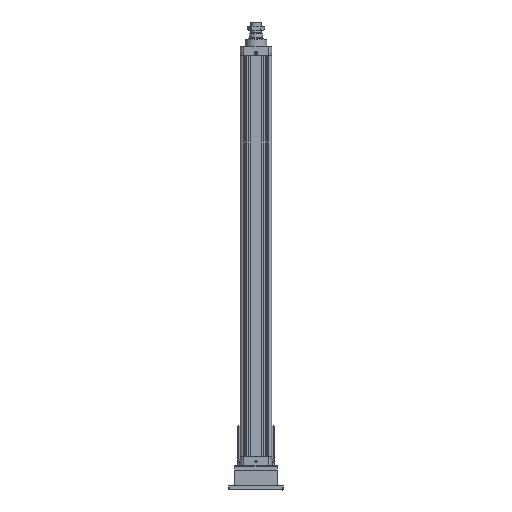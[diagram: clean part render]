
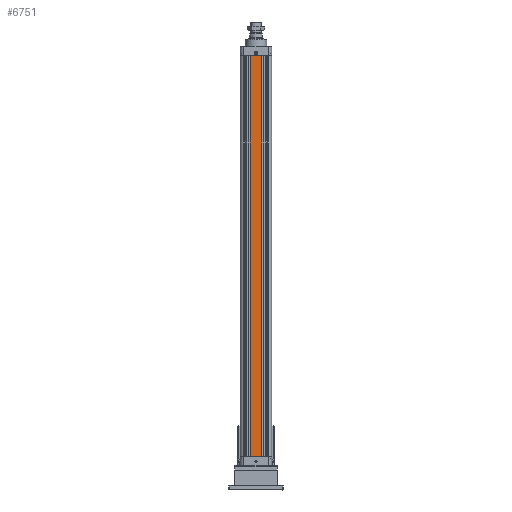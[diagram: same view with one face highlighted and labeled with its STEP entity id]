
A CAD part, top view. The second image highlights one B-rep face of the part: STEP entity #6751.
In plain terms, the highlighted planar face has unit normal (0, 0, 1).
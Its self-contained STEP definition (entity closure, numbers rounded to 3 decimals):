
#3271=DIRECTION('',(1.,0.,0.));
#3272=VECTOR('',#3271,38.8);
#3273=CARTESIAN_POINT('',(-19.4,-704.,55.));
#3274=LINE('',#3273,#3272);
#3779=DIRECTION('',(1.,0.,0.));
#3780=VECTOR('',#3779,38.8);
#3781=CARTESIAN_POINT('',(-19.4,704.,55.));
#3782=LINE('',#3781,#3780);
#4285=DIRECTION('',(0.,1.,0.));
#4286=VECTOR('',#4285,1408.);
#4287=CARTESIAN_POINT('',(-19.4,-704.,55.));
#4288=LINE('',#4287,#4286);
#4289=DIRECTION('',(0.,1.,0.));
#4290=VECTOR('',#4289,1408.);
#4291=CARTESIAN_POINT('',(19.4,-704.,55.));
#4292=LINE('',#4291,#4290);
#5457=CARTESIAN_POINT('',(-19.4,-704.,55.));
#5459=VERTEX_POINT('',#5457);
#5473=CARTESIAN_POINT('',(19.4,-704.,55.));
#5474=VERTEX_POINT('',#5473);
#5489=CARTESIAN_POINT('',(-19.4,704.,55.));
#5491=VERTEX_POINT('',#5489);
#5505=CARTESIAN_POINT('',(19.4,704.,55.));
#5506=VERTEX_POINT('',#5505);
#6738=CARTESIAN_POINT('',(-55.,-704.,55.));
#6739=DIRECTION('',(0.,0.,1.));
#6740=DIRECTION('',(1.,0.,0.));
#6741=AXIS2_PLACEMENT_3D('',#6738,#6739,#6740);
#6742=PLANE('',#6741);
#6744=ORIENTED_EDGE('',*,*,#6743,.T.);
#6745=ORIENTED_EDGE('',*,*,#6313,.T.);
#6747=ORIENTED_EDGE('',*,*,#6746,.F.);
#6748=ORIENTED_EDGE('',*,*,#5920,.F.);
#6749=EDGE_LOOP('',(#6744,#6745,#6747,#6748));
#6750=FACE_OUTER_BOUND('',#6749,.F.);
#6751=ADVANCED_FACE('',(#6750),#6742,.T.);
#5920=EDGE_CURVE('',#5459,#5474,#3274,.T.);
#6313=EDGE_CURVE('',#5491,#5506,#3782,.T.);
#6743=EDGE_CURVE('',#5459,#5491,#4288,.T.);
#6746=EDGE_CURVE('',#5474,#5506,#4292,.T.);
